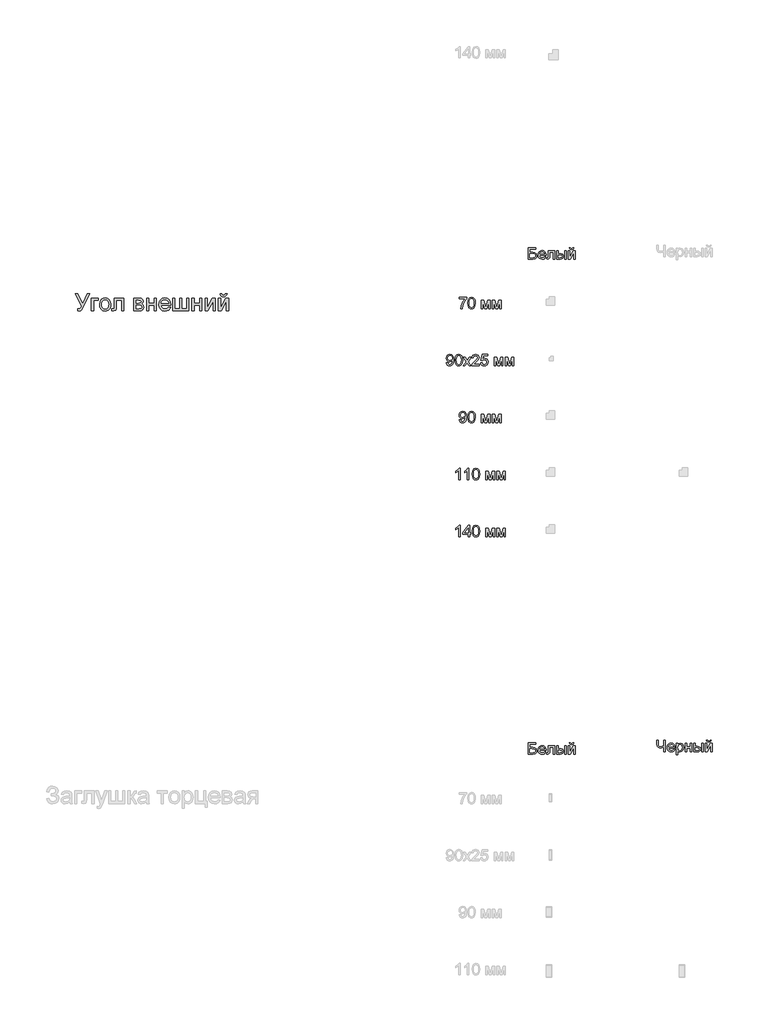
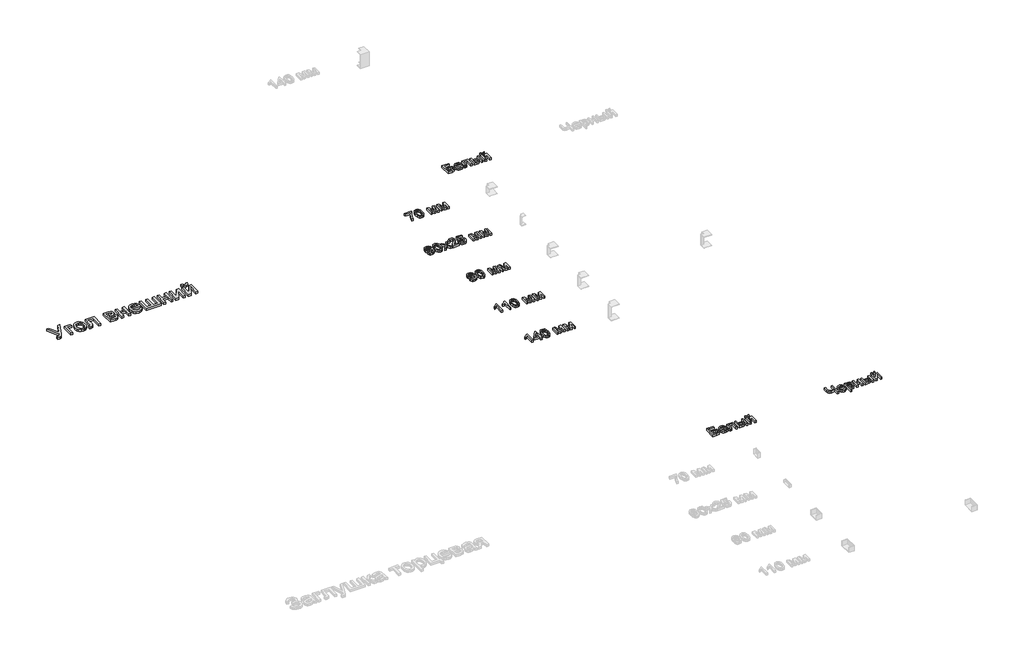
# One storey, part 10 of 48: 9 proxies.
"""IFC4 building model written with IfcOpenShell, lengths in millimetres."""

from ifc_helpers import new_model, si_unit, origin, origin_with_axes, place, context, project, spatial, polyline, outline, extrude, element, save

model = new_model("IFC4")

# Units and contexts
model_context = context("Model", 3, world=origin())
ifc_project = project(units=[si_unit("LENGTHUNIT", "METRE", prefix="MILLI")], contexts=[model_context])

# Site, building, storey
site = spatial("IfcSite", under=ifc_project)
building = spatial("IfcBuilding", under=site)
storey = spatial("IfcBuildingStorey", under=building, Name="Этаж 01", Elevation=0.0)

# Proxies
placement = place(None, origin())
element("IfcBuildingElementProxy", 1, Name="150 мм Arial", ObjectType="150 мм Arial", at=placement, inside=storey, context=model_context, shape_type="SweptSolid", body=[
    extrude(outline(polyline([(8834.9427305, -13090.0354137), (8855.8016396, -13090.0354137), (8900.867184, -13179.2835857), (8941.4077799, -13090.0354137), (8962.082748, -13090.0354137), (8904.8770978, -13207.4265583), (8889.3156894, -13236.2685067), (8881.9304583, -13241.3728694), (8871.914871, -13243.0743236), (8854.955511, -13240.7198789), (8854.955511, -13224.2387655), (8869.7811554, -13224.2387655), (8880.7808271, -13220.0449108), (8890.9711583, -13200.9518352), (8834.9427305, -13090.0354137)])), origin_with_axes(), (0.0, 0.0, 1.0), 20.0),
    extrude(outline(polyline([(8977.386639, -13130.0609747), (9038.602203, -13130.0609747), (9038.602203, -13148.8965329), (8996.2221972, -13148.8965329), (8996.2221972, -13240.7198789), (8977.386639, -13240.7198789), (8977.386639, -13130.0609747)])), origin_with_axes(), (0.0, 0.0, 1.0), 20.0),
    extrude(outline(polyline([(9048.0199821, -13185.3904268), (9052.0942752, -13158.7097851), (9064.3171545, -13139.9570004), (9079.4187104, -13130.7691476), (9097.5001104, -13127.70653), (9117.2875633, -13131.4359337), (9133.0926935, -13142.6241449), (9143.4531702, -13160.3882467), (9146.9066624, -13183.8453224), (9145.3799521, -13202.8740186), (9140.7998213, -13217.3593722), (9133.2996271, -13228.2072925), (9123.0127268, -13236.323689), (9110.794446, -13241.386665), (9097.5001104, -13243.0743236), (9077.4735343, -13239.3587155), (9061.6867982, -13228.211891), (9051.4366861, -13210.0753087), (9048.0199821, -13185.3904268)]), holes=[polyline([(9066.8555402, -13185.3536386), (9069.0352411, -13202.4003706), (9075.5743435, -13214.5450749), (9085.4151869, -13221.8153429), (9097.5001104, -13224.2387655), (9109.5298517, -13221.8015473), (9119.3523009, -13214.4898926), (9125.8914034, -13202.1842399), (9128.0711042, -13184.7650274), (9125.8776078, -13168.2149362), (9119.2971186, -13156.2357787), (9109.4608738, -13148.9655108), (9097.5001104, -13146.5420881), (9085.4151869, -13148.9563137), (9075.5743435, -13156.1989905), (9069.0352411, -13168.3161037), (9066.8555402, -13185.3536386)])]), origin_with_axes(), (0.0, 0.0, 1.0), 20.0),
    extrude(outline(polyline([(9177.5144444, -13130.0609747), (9262.2744561, -13130.0609747), (9262.2744561, -13240.6095143), (9243.4388979, -13240.6095143), (9243.4388979, -13148.8965329), (9196.3500025, -13148.8965329), (9196.3500025, -13201.6875992), (9195.0808097, -13226.0413873), (9188.1094458, -13236.323689), (9171.6283325, -13240.7198789), (9156.3244415, -13239.7633857), (9156.3244415, -13221.8843207), (9164.7489392, -13221.8843207), (9173.2654073, -13220.7254924), (9176.6683158, -13217.0466725), (9177.5144444, -13200.6207414), (9177.5144444, -13130.0609747)])), origin_with_axes(), (0.0, 0.0, 1.0), 20.0),
    extrude(outline(polyline([(9349.3889125, -13130.0609747), (9390.8860016, -13130.0609747), (9413.639503, -13132.5809664), (9426.4417964, -13141.8148045), (9431.7944795, -13157.9096418), (9428.5571179, -13170.9878467), (9418.808245, -13180.3136553), (9431.4633857, -13190.5223806), (9436.503369, -13208.2726869), (9433.3119927, -13222.6292818), (9425.7244265, -13232.7368396), (9413.7130794, -13238.7241191), (9397.2503601, -13240.7198789), (9349.3889125, -13240.7198789), (9349.3889125, -13130.0609747)]), holes=[polyline([(9368.2244707, -13172.4409806), (9386.8392996, -13172.4409806), (9402.1983729, -13171.4844874), (9409.6663774, -13167.6585146), (9412.9589213, -13160.7423331), (9411.5149845, -13155.1229357), (9407.183174, -13151.508495), (9387.4279108, -13148.8965329), (9368.2244707, -13148.8965329), (9368.2244707, -13172.4409806)]), polyline([(9368.2244707, -13221.8843207), (9391.32746, -13221.8843207), (9411.8184871, -13218.4814123), (9416.0583271, -13213.8415006), (9417.6678108, -13206.7275825), (9414.4488434, -13197.6592913), (9406.0611339, -13192.3801847), (9389.48805, -13191.2765387), (9368.2244707, -13191.2765387), (9368.2244707, -13221.8843207)])]), origin_with_axes(), (0.0, 0.0, 1.0), 20.0),
    extrude(outline(polyline([(9460.0478167, -13130.0609747), (9478.8833748, -13130.0609747), (9478.8833748, -13172.4409806), (9528.326715, -13172.4409806), (9528.326715, -13130.0609747), (9547.1622731, -13130.0609747), (9547.1622731, -13240.7198789), (9528.326715, -13240.7198789), (9528.326715, -13191.2765387), (9478.8833748, -13191.2765387), (9478.8833748, -13240.7198789), (9460.0478167, -13240.7198789), (9460.0478167, -13130.0609747)])), origin_with_axes(), (0.0, 0.0, 1.0), 20.0),
    extrude(outline(polyline([(9652.8915586, -13207.7576521), (9671.3592347, -13210.1120969), (9664.7051691, -13224.0272333), (9654.087175, -13234.4290968), (9639.7443758, -13240.9130169), (9621.9158946, -13243.0743236), (9599.8153837, -13239.3449199), (9582.8100385, -13228.1567087), (9571.9667167, -13210.2362571), (9568.3522761, -13186.3101318), (9572.0035049, -13161.5792647), (9582.9571913, -13143.0839974), (9599.7326103, -13131.5508968), (9620.8490368, -13127.70653), (9641.3078742, -13131.5416998), (9657.6556304, -13143.0472092), (9668.374792, -13161.5056883), (9671.9478459, -13186.1997672), (9671.8374813, -13191.2765387), (9587.1878342, -13191.2765387), (9590.4481884, -13205.3756162), (9598.021959, -13215.7406914), (9608.9526528, -13222.114247), (9622.2837766, -13224.2387655), (9640.7514527, -13220.3024281), (9652.8915586, -13207.7576521)]), holes=[polyline([(9587.1878342, -13172.4409806), (9653.1122878, -13172.4409806), (9650.5647049, -13162.4897726), (9645.5707068, -13155.371256), (9634.5894293, -13148.7493801), (9620.7754604, -13146.5420881), (9608.078933, -13148.3033232), (9597.5805006, -13153.5870283), (9590.2826415, -13161.8229865), (9587.1878342, -13172.4409806)])]), origin_with_axes(), (0.0, 0.0, 1.0), 20.0),
    extrude(outline(polyline([(9690.7834041, -13130.0609747), (9709.6189622, -13130.0609747), (9709.6189622, -13221.8843207), (9751.9989681, -13221.8843207), (9751.9989681, -13130.0609747), (9770.8345262, -13130.0609747), (9770.8345262, -13221.8843207), (9813.2145321, -13221.8843207), (9813.2145321, -13130.0609747), (9832.0500902, -13130.0609747), (9832.0500902, -13240.7198789), (9690.7834041, -13240.7198789), (9690.7834041, -13130.0609747)])), origin_with_axes(), (0.0, 0.0, 1.0), 20.0),
    extrude(outline(polyline([(9857.9489827, -13130.0609747), (9876.7845408, -13130.0609747), (9876.7845408, -13172.4409806), (9926.227881, -13172.4409806), (9926.227881, -13130.0609747), (9945.0634391, -13130.0609747), (9945.0634391, -13240.7198789), (9926.227881, -13240.7198789), (9926.227881, -13191.2765387), (9876.7845408, -13191.2765387), (9876.7845408, -13240.7198789), (9857.9489827, -13240.7198789), (9857.9489827, -13130.0609747)])), origin_with_axes(), (0.0, 0.0, 1.0), 20.0),
    extrude(outline(polyline([(9973.3167764, -13130.0609747), (9992.1523345, -13130.0609747), (9992.1523345, -13214.4531044), (10038.4318895, -13130.0609747), (10062.7856776, -13130.0609747), (10062.7856776, -13240.7198789), (10043.9501194, -13240.7198789), (10043.9501194, -13156.842784), (9997.96487, -13240.7198789), (9973.3167764, -13240.7198789), (9973.3167764, -13130.0609747)])), origin_with_axes(), (0.0, 0.0, 1.0), 20.0),
    extrude(outline(polyline([(10091.0390148, -13130.0609747), (10109.874573, -13130.0609747), (10109.874573, -13214.4531044), (10156.154128, -13130.0609747), (10180.507916, -13130.0609747), (10180.507916, -13240.7198789), (10161.6723579, -13240.7198789), (10161.6723579, -13156.842784), (10115.6871085, -13240.7198789), (10091.0390148, -13240.7198789), (10091.0390148, -13130.0609747)])), origin_with_axes(), (0.0, 0.0, 1.0), 20.0),
    extrude(outline(polyline([(10152.2545788, -13090.0354137), (10166.3812474, -13090.0354137), (10163.3416224, -13102.0973446), (10157.2393798, -13110.9862933), (10148.3504311, -13116.4631365), (10136.9506878, -13118.2887509), (10124.5806557, -13116.4769321), (10114.9881327, -13111.0414756), (10108.4306361, -13102.1663224), (10105.1656834, -13090.0354137), (10119.292352, -13090.0354137), (10124.5898528, -13100.6488092), (10135.2584306, -13104.1620823), (10146.9570781, -13100.7591738), (10152.2545788, -13090.0354137)])), origin_with_axes(), (0.0, 0.0, 1.0), 20.0),
])
element("IfcBuildingElementProxy", 2, Name="100 мм Arial", ObjectType="100 мм Arial", at=placement, inside=storey, context=model_context, shape_type="SweptSolid", body=[
    extrude(outline(polyline([(12202.0597089, -13136.7077814), (12202.0597089, -13124.1507427), (12267.9841625, -13124.1507427), (12267.9841625, -13134.3042857), (12249.2834944, -13161.3190869), (12234.9728848, -13195.7405789), (12230.3130462, -13223.037423), (12217.7560074, -13223.037423), (12222.7469398, -13194.7105093), (12236.4444127, -13162.692513), (12255.4271237, -13136.7077814), (12202.0597089, -13136.7077814)])), origin_with_axes(), (0.0, 0.0, 1.0), 20.0),
    extrude(outline(polyline([(12278.9715714, -13173.6186083), (12282.6626541, -13144.7153462), (12293.6255375, -13128.0502918), (12311.9337982, -13122.5811128), (12326.600027, -13125.8184744), (12336.7290446, -13135.1504143), (12342.6151566, -13150.0128469), (12344.8960249, -13173.6186083), (12341.2417304, -13202.399243), (12330.3156352, -13219.1010856), (12322.0842755, -13223.230561), (12311.9337982, -13224.6070528), (12298.8862501, -13222.2158198), (12288.9779617, -13215.0421209), (12281.473169, -13198.0521041), (12278.9715714, -13173.6186083)]), holes=[polyline([(12291.5286102, -13173.5940828), (12293.0001381, -13193.3462803), (12297.4147221, -13204.7782133), (12303.9875471, -13210.2320638), (12311.9337982, -13212.050014), (12319.8800493, -13210.2259325), (12326.4528742, -13204.7536878), (12330.8674582, -13193.3156234), (12332.3389862, -13173.5940828), (12330.9165091, -13154.2864094), (12326.649078, -13142.7655716), (12320.0885157, -13137.0450066), (12311.7866454, -13135.1381516), (12303.9262334, -13136.818146), (12297.6109258, -13141.8581294), (12293.0491891, -13154.0963371), (12291.5286102, -13173.5940828)])]), origin_with_axes(), (0.0, 0.0, 1.0), 20.0),
    extrude(outline(polyline([(12398.2634397, -13149.2648202), (12419.8703755, -13149.2648202), (12436.5231672, -13208.3221432), (12454.4758086, -13149.2648202), (12475.1753022, -13149.2648202), (12475.1753022, -13223.037423), (12462.6182634, -13223.037423), (12462.6182634, -13163.6367435), (12444.5675202, -13223.037423), (12428.0864068, -13223.037423), (12410.8204785, -13160.7917894), (12410.8204785, -13223.037423), (12398.2634397, -13223.037423), (12398.2634397, -13149.2648202)])), origin_with_axes(), (0.0, 0.0, 1.0), 20.0),
    extrude(outline(polyline([(12494.0108603, -13149.2648202), (12515.6177962, -13149.2648202), (12532.2705878, -13208.3221432), (12550.2232292, -13149.2648202), (12570.9227228, -13149.2648202), (12570.9227228, -13223.037423), (12558.365684, -13223.037423), (12558.365684, -13163.6367435), (12540.3149408, -13223.037423), (12523.8338274, -13223.037423), (12506.5678991, -13160.7917894), (12506.5678991, -13223.037423), (12494.0108603, -13223.037423), (12494.0108603, -13149.2648202)])), origin_with_axes(), (0.0, 0.0, 1.0), 20.0),
])
element("IfcBuildingElementProxy", 3, Name="100 мм Arial", ObjectType="100 мм Arial", at=placement, inside=storey, context=model_context, shape_type="SweptSolid", body=[
    extrude(outline(polyline([(12091.4008048, -13697.9233454), (12103.9578436, -13696.3537156), (12109.5987008, -13708.3344059), (12120.2918041, -13712.050014), (12130.4576099, -13709.6587811), (12137.349266, -13703.2698971), (12141.4572816, -13692.3560646), (12143.2721661, -13677.7879376), (12143.1985897, -13675.3353909), (12133.1554112, -13684.8512719), (12119.3843619, -13688.5055663), (12107.9340348, -13686.2737489), (12098.4028254, -13679.5782966), (12091.9740876, -13669.2346812), (12089.8311749, -13656.0583744), (12092.0783208, -13642.4467406), (12098.8197584, -13631.7781627), (12108.9457103, -13624.8803753), (12121.3463992, -13622.5811128), (12139.2377269, -13627.8295626), (12151.549511, -13642.7900971), (12155.7556285, -13670.8962815), (12151.5617737, -13701.3936989), (12146.3470464, -13711.3847608), (12139.0905741, -13718.67189), (12130.1050564, -13723.1232621), (12119.7031929, -13724.6070528), (12108.9671701, -13722.8565476), (12100.4016509, -13717.6050322), (12094.4113058, -13709.1836002), (12091.4008048, -13697.9233454)]), holes=[polyline([(12143.1985897, -13655.7640688), (12141.8435577, -13647.253732), (12137.7784616, -13640.7054324), (12131.4692854, -13636.5299718), (12123.3820129, -13635.1381516), (12114.9943034, -13636.6372707), (12108.2743256, -13641.1346281), (12103.8597417, -13648.0170871), (12102.3882137, -13656.671511), (12103.7800339, -13664.4307554), (12107.9554946, -13670.5897132), (12114.5099254, -13674.608824), (12123.0386564, -13675.9485276), (12137.5209442, -13670.5897132), (12141.7791783, -13664.2038949), (12143.1985897, -13655.7640688)])]), origin_with_axes(), (0.0, 0.0, 1.0), 20.0),
    extrude(outline(polyline([(12166.7430374, -13673.6186083), (12170.4341201, -13644.7153462), (12181.3970035, -13628.0502918), (12199.7052642, -13622.5811128), (12214.371493, -13625.8184744), (12224.5005106, -13635.1504143), (12230.3866226, -13650.0128469), (12232.6674909, -13673.6186083), (12229.0131964, -13702.399243), (12218.0871012, -13719.1010856), (12209.8557415, -13723.230561), (12199.7052642, -13724.6070528), (12186.6577161, -13722.2158198), (12176.7494277, -13715.0421209), (12169.244635, -13698.0521041), (12166.7430374, -13673.6186083)]), holes=[polyline([(12179.3000762, -13673.5940828), (12180.7716041, -13693.3462803), (12185.1861881, -13704.7782133), (12191.7590131, -13710.2320638), (12199.7052642, -13712.050014), (12207.6515153, -13710.2259325), (12214.2243402, -13704.7536878), (12218.6389242, -13693.3156234), (12220.1104522, -13673.5940828), (12218.6879751, -13654.2864094), (12214.420544, -13642.7655716), (12207.8599817, -13637.0450066), (12199.5581114, -13635.1381516), (12191.6976994, -13636.818146), (12185.3823918, -13641.8581294), (12180.8206551, -13654.0963371), (12179.3000762, -13673.5940828)])]), origin_with_axes(), (0.0, 0.0, 1.0), 20.0),
    extrude(outline(polyline([(12238.9460103, -13723.037423), (12265.7768705, -13685.9549178), (12240.5156402, -13649.2648202), (12255.6233274, -13649.2648202), (12267.8124842, -13666.923156), (12273.5023924, -13675.2618145), (12278.4320111, -13668.4437349), (12292.3134251, -13649.2648202), (12307.4211124, -13649.2648202), (12280.8845578, -13685.9549178), (12306.4400937, -13723.037423), (12291.3324064, -13723.037423), (12275.954939, -13700.7437741), (12273.1345104, -13696.6725466), (12254.0536976, -13723.037423), (12238.9460103, -13723.037423)])), origin_with_axes(), (0.0, 0.0, 1.0), 20.0),
    extrude(outline(polyline([(12378.6430666, -13710.4803842), (12378.6430666, -13723.037423), (12312.7186131, -13723.037423), (12314.0675137, -13714.3799333), (12321.6949338, -13701.0503424), (12337.4157577, -13686.4944781), (12359.0962699, -13665.5742553), (12364.516398, -13651.3494848), (12359.4028383, -13639.8347784), (12346.0487218, -13635.1381516), (12332.1305197, -13639.7244138), (12326.8452817, -13652.4040799), (12314.2882429, -13650.83445), (12317.3324664, -13638.6882128), (12323.9144885, -13629.8161254), (12333.6909525, -13624.389866), (12346.318502, -13622.5811128), (12359.038022, -13624.5922011), (12368.7960919, -13630.6254658), (12375.0041005, -13639.6385747), (12377.0734368, -13650.5891954), (12374.8416193, -13662.4963093), (12367.4226658, -13674.8080934), (12349.4332362, -13692.012708), (12334.9877365, -13704.0915002), (12329.3223538, -13710.4803842), (12378.6430666, -13710.4803842)])), origin_with_axes(), (0.0, 0.0, 1.0), 20.0),
    extrude(outline(polyline([(12391.2001054, -13696.3537156), (12403.7571442, -13694.7840857), (12410.0847145, -13707.7212692), (12423.205839, -13712.050014), (12432.2066851, -13710.5447635), (12438.9511884, -13706.029012), (12443.1634372, -13699.0239257), (12444.5675202, -13690.0506707), (12439.3068076, -13675.1391872), (12432.7002601, -13671.0373029), (12423.4020427, -13669.6700082), (12412.3778456, -13671.8527747), (12405.326774, -13677.5181574), (12392.7697352, -13675.9485276), (12403.7571442, -13624.1507427), (12452.4156694, -13624.1507427), (12452.4156694, -13636.7077814), (12413.9106872, -13636.7077814), (12408.5396101, -13664.3725075), (12417.5097994, -13658.9278539), (12426.9091844, -13657.1129694), (12438.6415543, -13659.363181), (12448.3812302, -13666.1138156), (12454.9387267, -13676.4022487), (12457.1245589, -13689.2658558), (12455.1563902, -13701.8228946), (12449.2518842, -13712.5650488), (12437.9456442, -13721.5965518), (12423.156788, -13724.6070528), (12410.8235441, -13722.6726066), (12400.9980292, -13716.8692682), (12394.262723, -13707.8714877), (12391.2001054, -13696.3537156)])), origin_with_axes(), (0.0, 0.0, 1.0), 20.0),
    extrude(outline(polyline([(12510.4919737, -13649.2648202), (12532.0989095, -13649.2648202), (12548.7517012, -13708.3221432), (12566.7043426, -13649.2648202), (12587.4038361, -13649.2648202), (12587.4038361, -13723.037423), (12574.8467974, -13723.037423), (12574.8467974, -13663.6367435), (12556.7960541, -13723.037423), (12540.3149408, -13723.037423), (12523.0490125, -13660.7917894), (12523.0490125, -13723.037423), (12510.4919737, -13723.037423), (12510.4919737, -13649.2648202)])), origin_with_axes(), (0.0, 0.0, 1.0), 20.0),
    extrude(outline(polyline([(12606.2393943, -13649.2648202), (12627.8463301, -13649.2648202), (12644.4991218, -13708.3221432), (12662.4517632, -13649.2648202), (12683.1512568, -13649.2648202), (12683.1512568, -13723.037423), (12670.594218, -13723.037423), (12670.594218, -13663.6367435), (12652.5434748, -13723.037423), (12636.0623614, -13723.037423), (12618.7964331, -13660.7917894), (12618.7964331, -13723.037423), (12606.2393943, -13723.037423), (12606.2393943, -13649.2648202)])), origin_with_axes(), (0.0, 0.0, 1.0), 20.0),
])
element("IfcBuildingElementProxy", 4, Name="100 мм Arial", ObjectType="100 мм Arial", at=placement, inside=storey, context=model_context, shape_type="SweptSolid", body=[
    extrude(outline(polyline([(12203.6293388, -14197.9233454), (12216.1863775, -14196.3537156), (12221.8272348, -14208.3344059), (12232.5203381, -14212.050014), (12242.6861439, -14209.6587811), (12249.5778, -14203.2698971), (12253.6858156, -14192.3560646), (12255.5007001, -14177.7879376), (12255.4271237, -14175.3353909), (12245.3839452, -14184.8512719), (12231.6128959, -14188.5055663), (12220.1625688, -14186.2737489), (12210.6313594, -14179.5782966), (12204.2026216, -14169.2346812), (12202.0597089, -14156.0583744), (12204.3068548, -14142.4467406), (12211.0482923, -14131.7781627), (12221.1742443, -14124.8803753), (12233.5749332, -14122.5811128), (12251.4662609, -14127.8295626), (12263.778045, -14142.7900971), (12267.9841625, -14170.8962815), (12263.7903077, -14201.3936989), (12258.5755804, -14211.3847608), (12251.3191081, -14218.67189), (12242.3335904, -14223.1232621), (12231.9317269, -14224.6070528), (12221.195704, -14222.8565476), (12212.6301849, -14217.6050322), (12206.6398398, -14209.1836002), (12203.6293388, -14197.9233454)]), holes=[polyline([(12255.4271237, -14155.7640688), (12254.0720917, -14147.253732), (12250.0069956, -14140.7054324), (12243.6978194, -14136.5299718), (12235.6105469, -14135.1381516), (12227.2228374, -14136.6372707), (12220.5028596, -14141.1346281), (12216.0882757, -14148.0170871), (12214.6167477, -14156.671511), (12216.0085679, -14164.4307554), (12220.1840286, -14170.5897132), (12226.7384594, -14174.608824), (12235.2671904, -14175.9485276), (12249.7494782, -14170.5897132), (12254.0077123, -14164.2038949), (12255.4271237, -14155.7640688)])]), origin_with_axes(), (0.0, 0.0, 1.0), 20.0),
    extrude(outline(polyline([(12278.9715714, -14173.6186083), (12282.6626541, -14144.7153462), (12293.6255375, -14128.0502918), (12311.9337982, -14122.5811128), (12326.600027, -14125.8184744), (12336.7290446, -14135.1504143), (12342.6151566, -14150.0128469), (12344.8960249, -14173.6186083), (12341.2417304, -14202.399243), (12330.3156352, -14219.1010856), (12322.0842755, -14223.230561), (12311.9337982, -14224.6070528), (12298.8862501, -14222.2158198), (12288.9779617, -14215.0421209), (12281.473169, -14198.0521041), (12278.9715714, -14173.6186083)]), holes=[polyline([(12291.5286102, -14173.5940828), (12293.0001381, -14193.3462803), (12297.4147221, -14204.7782133), (12303.9875471, -14210.2320638), (12311.9337982, -14212.050014), (12319.8800493, -14210.2259325), (12326.4528742, -14204.7536878), (12330.8674582, -14193.3156234), (12332.3389862, -14173.5940828), (12330.9165091, -14154.2864094), (12326.649078, -14142.7655716), (12320.0885157, -14137.0450066), (12311.7866454, -14135.1381516), (12303.9262334, -14136.818146), (12297.6109258, -14141.8581294), (12293.0491891, -14154.0963371), (12291.5286102, -14173.5940828)])]), origin_with_axes(), (0.0, 0.0, 1.0), 20.0),
    extrude(outline(polyline([(12398.2634397, -14149.2648202), (12419.8703755, -14149.2648202), (12436.5231672, -14208.3221432), (12454.4758086, -14149.2648202), (12475.1753022, -14149.2648202), (12475.1753022, -14223.037423), (12462.6182634, -14223.037423), (12462.6182634, -14163.6367435), (12444.5675202, -14223.037423), (12428.0864068, -14223.037423), (12410.8204785, -14160.7917894), (12410.8204785, -14223.037423), (12398.2634397, -14223.037423), (12398.2634397, -14149.2648202)])), origin_with_axes(), (0.0, 0.0, 1.0), 20.0),
    extrude(outline(polyline([(12494.0108603, -14149.2648202), (12515.6177962, -14149.2648202), (12532.2705878, -14208.3221432), (12550.2232292, -14149.2648202), (12570.9227228, -14149.2648202), (12570.9227228, -14223.037423), (12558.365684, -14223.037423), (12558.365684, -14163.6367435), (12540.3149408, -14223.037423), (12523.8338274, -14223.037423), (12506.5678991, -14160.7917894), (12506.5678991, -14223.037423), (12494.0108603, -14223.037423), (12494.0108603, -14149.2648202)])), origin_with_axes(), (0.0, 0.0, 1.0), 20.0),
])
element("IfcBuildingElementProxy", 5, Name="100 мм Arial", ObjectType="100 мм Arial", at=placement, inside=storey, context=model_context, shape_type="SweptSolid", body=[
    extrude(outline(polyline([(12210.6926731, -14723.037423), (12198.1356343, -14723.037423), (12198.1356343, -14644.7521344), (12186.2407831, -14653.225683), (12173.0215568, -14659.5655161), (12173.0215568, -14647.6951903), (12191.4279193, -14635.947492), (12202.5992692, -14622.5811128), (12210.6926731, -14622.5811128), (12210.6926731, -14723.037423)])), origin_with_axes(), (0.0, 0.0, 1.0), 20.0),
    extrude(outline(polyline([(12287.6045355, -14723.037423), (12275.0474968, -14723.037423), (12275.0474968, -14644.7521344), (12263.1526456, -14653.225683), (12249.9334192, -14659.5655161), (12249.9334192, -14647.6951903), (12268.3397817, -14635.947492), (12279.5111316, -14622.5811128), (12287.6045355, -14622.5811128), (12287.6045355, -14723.037423)])), origin_with_axes(), (0.0, 0.0, 1.0), 20.0),
    extrude(outline(polyline([(12317.4275026, -14673.6186083), (12321.1185853, -14644.7153462), (12332.0814688, -14628.0502918), (12350.3897294, -14622.5811128), (12365.0559583, -14625.8184744), (12375.1849759, -14635.1504143), (12381.0710878, -14650.0128469), (12383.3519562, -14673.6186083), (12379.6976617, -14702.399243), (12368.7715664, -14719.1010856), (12360.5402068, -14723.230561), (12350.3897294, -14724.6070528), (12337.3421813, -14722.2158198), (12327.4338929, -14715.0421209), (12319.9291002, -14698.0521041), (12317.4275026, -14673.6186083)]), holes=[polyline([(12329.9845414, -14673.5940828), (12331.4560694, -14693.3462803), (12335.8706533, -14704.7782133), (12342.4434783, -14710.2320638), (12350.3897294, -14712.050014), (12358.3359805, -14710.2259325), (12364.9088055, -14704.7536878), (12369.3233894, -14693.3156234), (12370.7949174, -14673.5940828), (12369.3724403, -14654.2864094), (12365.1050092, -14642.7655716), (12358.5444469, -14637.0450066), (12350.2425766, -14635.1381516), (12342.3821646, -14636.818146), (12336.066857, -14641.8581294), (12331.5051203, -14654.0963371), (12329.9845414, -14673.5940828)])]), origin_with_axes(), (0.0, 0.0, 1.0), 20.0),
    extrude(outline(polyline([(12436.7193709, -14649.2648202), (12458.3263068, -14649.2648202), (12474.9790984, -14708.3221432), (12492.9317398, -14649.2648202), (12513.6312334, -14649.2648202), (12513.6312334, -14723.037423), (12501.0741946, -14723.037423), (12501.0741946, -14663.6367435), (12483.0234514, -14723.037423), (12466.542338, -14723.037423), (12449.2764097, -14660.7917894), (12449.2764097, -14723.037423), (12436.7193709, -14723.037423), (12436.7193709, -14649.2648202)])), origin_with_axes(), (0.0, 0.0, 1.0), 20.0),
    extrude(outline(polyline([(12532.4667915, -14649.2648202), (12554.0737274, -14649.2648202), (12570.726519, -14708.3221432), (12588.6791604, -14649.2648202), (12609.378654, -14649.2648202), (12609.378654, -14723.037423), (12596.8216152, -14723.037423), (12596.8216152, -14663.6367435), (12578.770872, -14723.037423), (12562.2897586, -14723.037423), (12545.0238303, -14660.7917894), (12545.0238303, -14723.037423), (12532.4667915, -14723.037423), (12532.4667915, -14649.2648202)])), origin_with_axes(), (0.0, 0.0, 1.0), 20.0),
])
element("IfcBuildingElementProxy", 6, Name="100 мм Arial", ObjectType="100 мм Arial", at=placement, inside=storey, context=model_context, shape_type="SweptSolid", body=[
    extrude(outline(polyline([(12210.6926731, -15223.037423), (12198.1356343, -15223.037423), (12198.1356343, -15144.7521344), (12186.2407831, -15153.225683), (12173.0215568, -15159.5655161), (12173.0215568, -15147.6951903), (12191.4279193, -15135.947492), (12202.5992692, -15122.5811128), (12210.6926731, -15122.5811128), (12210.6926731, -15223.037423)])), origin_with_axes(), (0.0, 0.0, 1.0), 20.0),
    extrude(outline(polyline([(12281.3260162, -15223.037423), (12281.3260162, -15199.4929753), (12235.8067506, -15199.4929753), (12235.8067506, -15186.9359365), (12284.4652759, -15124.1507427), (12293.8830549, -15124.1507427), (12293.8830549, -15186.9359365), (12306.4400937, -15186.9359365), (12306.4400937, -15199.4929753), (12293.8830549, -15199.4929753), (12293.8830549, -15223.037423), (12281.3260162, -15223.037423)]), holes=[polyline([(12281.3260162, -15186.9359365), (12281.3260162, -15148.1366487), (12251.2577944, -15186.9359365), (12281.3260162, -15186.9359365)])]), origin_with_axes(), (0.0, 0.0, 1.0), 20.0),
    extrude(outline(polyline([(12317.4275026, -15173.6186083), (12321.1185853, -15144.7153462), (12332.0814688, -15128.0502918), (12350.3897294, -15122.5811128), (12365.0559583, -15125.8184744), (12375.1849759, -15135.1504143), (12381.0710878, -15150.0128469), (12383.3519562, -15173.6186083), (12379.6976617, -15202.399243), (12368.7715664, -15219.1010856), (12360.5402068, -15223.230561), (12350.3897294, -15224.6070528), (12337.3421813, -15222.2158198), (12327.4338929, -15215.0421209), (12319.9291002, -15198.0521041), (12317.4275026, -15173.6186083)]), holes=[polyline([(12329.9845414, -15173.5940828), (12331.4560694, -15193.3462803), (12335.8706533, -15204.7782133), (12342.4434783, -15210.2320638), (12350.3897294, -15212.050014), (12358.3359805, -15210.2259325), (12364.9088055, -15204.7536878), (12369.3233894, -15193.3156234), (12370.7949174, -15173.5940828), (12369.3724403, -15154.2864094), (12365.1050092, -15142.7655716), (12358.5444469, -15137.0450066), (12350.2425766, -15135.1381516), (12342.3821646, -15136.818146), (12336.066857, -15141.8581294), (12331.5051203, -15154.0963371), (12329.9845414, -15173.5940828)])]), origin_with_axes(), (0.0, 0.0, 1.0), 20.0),
    extrude(outline(polyline([(12436.7193709, -15149.2648202), (12458.3263068, -15149.2648202), (12474.9790984, -15208.3221432), (12492.9317398, -15149.2648202), (12513.6312334, -15149.2648202), (12513.6312334, -15223.037423), (12501.0741946, -15223.037423), (12501.0741946, -15163.6367435), (12483.0234514, -15223.037423), (12466.542338, -15223.037423), (12449.2764097, -15160.7917894), (12449.2764097, -15223.037423), (12436.7193709, -15223.037423), (12436.7193709, -15149.2648202)])), origin_with_axes(), (0.0, 0.0, 1.0), 20.0),
    extrude(outline(polyline([(12532.4667915, -15149.2648202), (12554.0737274, -15149.2648202), (12570.726519, -15208.3221432), (12588.6791604, -15149.2648202), (12609.378654, -15149.2648202), (12609.378654, -15223.037423), (12596.8216152, -15223.037423), (12596.8216152, -15163.6367435), (12578.770872, -15223.037423), (12562.2897586, -15223.037423), (12545.0238303, -15160.7917894), (12545.0238303, -15223.037423), (12532.4667915, -15223.037423), (12532.4667915, -15149.2648202)])), origin_with_axes(), (0.0, 0.0, 1.0), 20.0),
])
element("IfcBuildingElementProxy", 7, Name="100 мм Arial", ObjectType="100 мм Arial", at=placement, inside=storey, context=model_context, shape_type="SweptSolid", body=[
    extrude(outline(polyline([(12811.066508, -12686.1711167), (12873.8517019, -12686.1711167), (12873.8517019, -12698.7281555), (12823.6235468, -12698.7281555), (12823.6235468, -12728.5511226), (12847.143469, -12728.5511226), (12867.8674881, -12731.1017711), (12880.2037976, -12740.7402794), (12884.8391108, -12757.2213927), (12881.5404356, -12771.5320024), (12871.6934608, -12782.4090467), (12849.3998119, -12786.6274269), (12811.066508, -12786.6274269), (12811.066508, -12686.1711167)]), holes=[polyline([(12823.6235468, -12774.0703881), (12850.5279834, -12774.0703881), (12866.8374185, -12769.9255843), (12870.9209086, -12764.7445795), (12872.282072, -12757.4911729), (12869.1673378, -12747.6564609), (12860.4975854, -12742.4080111), (12841.5761881, -12741.1081614), (12823.6235468, -12741.1081614), (12823.6235468, -12774.0703881)])]), origin_with_axes(), (0.0, 0.0, 1.0), 20.0),
    extrude(outline(polyline([(12952.1860414, -12764.652609), (12964.4978255, -12766.2222389), (12960.0617817, -12775.4989965), (12952.983119, -12782.4335721), (12943.4212528, -12786.7561856), (12931.5355987, -12788.1970567), (12916.8019248, -12785.7107876), (12905.465028, -12778.2519801), (12898.2361468, -12766.3050123), (12895.8265197, -12750.3542622), (12898.2606722, -12733.8670174), (12905.5631298, -12721.5368392), (12916.7467425, -12713.8481055), (12930.8243602, -12711.2851943), (12944.4635851, -12713.8419741), (12955.3620893, -12721.5123137), (12962.508197, -12733.8179665), (12964.8902329, -12750.2806858), (12964.8166565, -12753.6652001), (12908.3835585, -12753.6652001), (12910.5571279, -12763.0645851), (12915.6063083, -12769.9746352), (12922.8934375, -12774.2236723), (12931.7808534, -12775.640018), (12944.0926375, -12773.0157931), (12952.1860414, -12764.652609)]), holes=[polyline([(12908.3835585, -12741.1081614), (12952.3331942, -12741.1081614), (12947.3054736, -12729.728345), (12939.9846219, -12725.313761), (12930.7753092, -12723.842233), (12915.3120027, -12728.5388599), (12910.4467633, -12734.0294986), (12908.3835585, -12741.1081614)])]), origin_with_axes(), (0.0, 0.0, 1.0), 20.0),
    extrude(outline(polyline([(12983.7257911, -12712.8548241), (13040.2324655, -12712.8548241), (13040.2324655, -12786.5538505), (13027.6754268, -12786.5538505), (13027.6754268, -12725.4118629), (12996.2828298, -12725.4118629), (12996.2828298, -12760.6059071), (12995.4367013, -12776.8417658), (12990.7891254, -12783.6966337), (12979.8017165, -12786.6274269), (12969.5991225, -12785.9897648), (12969.5991225, -12774.0703881), (12975.2154543, -12774.0703881), (12980.8930997, -12773.2978359), (12983.1617054, -12770.8452893), (12983.7257911, -12759.8946686), (12983.7257911, -12712.8548241)])), origin_with_axes(), (0.0, 0.0, 1.0), 20.0),
    extrude(outline(polyline([(13128.1317369, -12712.8548241), (13140.6887757, -12712.8548241), (13140.6887757, -12786.6274269), (13128.1317369, -12786.6274269), (13128.1317369, -12712.8548241)])), origin_with_axes(), (0.0, 0.0, 1.0), 20.0),
    extrude(outline(polyline([(13059.0680237, -12712.8548241), (13071.6250625, -12712.8548241), (13071.6250625, -12739.5385315), (13087.1496827, -12739.5385315), (13100.5681784, -12741.111227), (13110.5101894, -12745.8293136), (13116.6630157, -12753.3126465), (13118.7139578, -12763.1810811), (13116.9941095, -12772.1665988), (13111.8345645, -12779.7480336), (13102.8980977, -12784.9075786), (13089.847484, -12786.6274269), (13059.0680237, -12786.6274269), (13059.0680237, -12712.8548241)]), holes=[polyline([(13071.6250625, -12774.0703881), (13084.5254578, -12774.0703881), (13101.1782494, -12771.4339005), (13106.1569191, -12763.2056065), (13102.4658364, -12755.4800846), (13086.168664, -12752.0955703), (13071.6250625, -12752.0955703), (13071.6250625, -12774.0703881)])]), origin_with_axes(), (0.0, 0.0, 1.0), 20.0),
    extrude(outline(polyline([(13159.5243338, -12712.8548241), (13172.0813726, -12712.8548241), (13172.0813726, -12769.1162439), (13202.9344093, -12712.8548241), (13219.170268, -12712.8548241), (13219.170268, -12786.6274269), (13206.6132292, -12786.6274269), (13206.6132292, -12730.7093636), (13175.9563963, -12786.6274269), (13159.5243338, -12786.6274269), (13159.5243338, -12712.8548241)])), origin_with_axes(), (0.0, 0.0, 1.0), 20.0),
    extrude(outline(polyline([(13200.3347098, -12686.1711167), (13209.7524889, -12686.1711167), (13203.6579105, -12700.1383698), (13190.1321158, -12705.0066749), (13175.4904124, -12700.175158), (13168.9421129, -12686.1711167), (13178.359892, -12686.1711167), (13181.8915591, -12693.2467138), (13189.0039444, -12695.5888958), (13196.8030427, -12693.3202902), (13200.3347098, -12686.1711167)])), origin_with_axes(), (0.0, 0.0, 1.0), 20.0),
])
element("IfcBuildingElementProxy", 8, Name="100 мм Arial", ObjectType="100 мм Arial", at=placement, inside=storey, context=model_context, shape_type="SweptSolid", body=[
    extrude(outline(polyline([(12811.066508, -17029.5825796), (12873.8517019, -17029.5825796), (12873.8517019, -17042.1396184), (12823.6235468, -17042.1396184), (12823.6235468, -17071.9625854), (12847.143469, -17071.9625854), (12867.8674881, -17074.5132339), (12880.2037976, -17084.1517422), (12884.8391108, -17100.6328556), (12881.5404356, -17114.9434652), (12871.6934608, -17125.8205095), (12849.3998119, -17130.0388898), (12811.066508, -17130.0388898), (12811.066508, -17029.5825796)]), holes=[polyline([(12823.6235468, -17117.481851), (12850.5279834, -17117.481851), (12866.8374185, -17113.3370472), (12870.9209086, -17108.1560424), (12872.282072, -17100.9026357), (12869.1673378, -17091.0679237), (12860.4975854, -17085.8194739), (12841.5761881, -17084.5196242), (12823.6235468, -17084.5196242), (12823.6235468, -17117.481851)])]), origin_with_axes(), (0.0, 0.0, 1.0), 20.0),
    extrude(outline(polyline([(12952.1860414, -17108.0640719), (12964.4978255, -17109.6337018), (12960.0617817, -17118.9104594), (12952.983119, -17125.845035), (12943.4212528, -17130.1676484), (12931.5355987, -17131.6085196), (12916.8019248, -17129.1222504), (12905.465028, -17121.663443), (12898.2361468, -17109.7164752), (12895.8265197, -17093.765725), (12898.2606722, -17077.2784803), (12905.5631298, -17064.9483021), (12916.7467425, -17057.2595684), (12930.8243602, -17054.6966571), (12944.4635851, -17057.253437), (12955.3620893, -17064.9237766), (12962.508197, -17077.2294293), (12964.8902329, -17093.6921486), (12964.8166565, -17097.076663), (12908.3835585, -17097.076663), (12910.5571279, -17106.476048), (12915.6063083, -17113.3860981), (12922.8934375, -17117.6351351), (12931.7808534, -17119.0514808), (12944.0926375, -17116.4272559), (12952.1860414, -17108.0640719)]), holes=[polyline([(12908.3835585, -17084.5196242), (12952.3331942, -17084.5196242), (12947.3054736, -17073.1398078), (12939.9846219, -17068.7252239), (12930.7753092, -17067.2536959), (12915.3120027, -17071.9503227), (12910.4467633, -17077.4409615), (12908.3835585, -17084.5196242)])]), origin_with_axes(), (0.0, 0.0, 1.0), 20.0),
    extrude(outline(polyline([(12983.7257911, -17056.266287), (13040.2324655, -17056.266287), (13040.2324655, -17129.9653134), (13027.6754268, -17129.9653134), (13027.6754268, -17068.8233258), (12996.2828298, -17068.8233258), (12996.2828298, -17104.01737), (12995.4367013, -17120.2532287), (12990.7891254, -17127.1080965), (12979.8017165, -17130.0388898), (12969.5991225, -17129.4012276), (12969.5991225, -17117.481851), (12975.2154543, -17117.481851), (12980.8930997, -17116.7092988), (12983.1617054, -17114.2567522), (12983.7257911, -17103.3061314), (12983.7257911, -17056.266287)])), origin_with_axes(), (0.0, 0.0, 1.0), 20.0),
    extrude(outline(polyline([(13128.1317369, -17056.266287), (13140.6887757, -17056.266287), (13140.6887757, -17130.0388898), (13128.1317369, -17130.0388898), (13128.1317369, -17056.266287)])), origin_with_axes(), (0.0, 0.0, 1.0), 20.0),
    extrude(outline(polyline([(13059.0680237, -17056.266287), (13071.6250625, -17056.266287), (13071.6250625, -17082.9499944), (13087.1496827, -17082.9499944), (13100.5681784, -17084.5226899), (13110.5101894, -17089.2407765), (13116.6630157, -17096.7241094), (13118.7139578, -17106.5925439), (13116.9941095, -17115.5780617), (13111.8345645, -17123.1594964), (13102.8980977, -17128.3190414), (13089.847484, -17130.0388898), (13059.0680237, -17130.0388898), (13059.0680237, -17056.266287)]), holes=[polyline([(13071.6250625, -17117.481851), (13084.5254578, -17117.481851), (13101.1782494, -17114.8453634), (13106.1569191, -17106.6170694), (13102.4658364, -17098.8915475), (13086.168664, -17095.5070331), (13071.6250625, -17095.5070331), (13071.6250625, -17117.481851)])]), origin_with_axes(), (0.0, 0.0, 1.0), 20.0),
    extrude(outline(polyline([(13159.5243338, -17056.266287), (13172.0813726, -17056.266287), (13172.0813726, -17112.5277068), (13202.9344093, -17056.266287), (13219.170268, -17056.266287), (13219.170268, -17130.0388898), (13206.6132292, -17130.0388898), (13206.6132292, -17074.1208265), (13175.9563963, -17130.0388898), (13159.5243338, -17130.0388898), (13159.5243338, -17056.266287)])), origin_with_axes(), (0.0, 0.0, 1.0), 20.0),
    extrude(outline(polyline([(13200.3347098, -17029.5825796), (13209.7524889, -17029.5825796), (13203.6579105, -17043.5498327), (13190.1321158, -17048.4181378), (13175.4904124, -17043.5866209), (13168.9421129, -17029.5825796), (13178.359892, -17029.5825796), (13181.8915591, -17036.6581766), (13189.0039444, -17039.0003587), (13196.8030427, -17036.731753), (13200.3347098, -17029.5825796)])), origin_with_axes(), (0.0, 0.0, 1.0), 20.0),
])
element("IfcBuildingElementProxy", 9, Name="100 мм Arial", ObjectType="100 мм Arial", at=placement, inside=storey, context=model_context, shape_type="SweptSolid", body=[
    extrude(outline(polyline([(14011.6331218, -17109.5408408), (13999.076083, -17109.5408408), (13999.076083, -17069.319076), (13967.9777917, -17076.5786141), (13949.6204802, -17071.6122071), (13938.9764278, -17059.0061174), (13936.2908892, -17039.0055996), (13936.2908892, -17009.0845307), (13948.847928, -17009.0845307), (13948.847928, -17037.3133425), (13950.3562442, -17050.8912538), (13954.8811927, -17058.8589646), (13969.3757433, -17064.0215753), (13999.076083, -17057.7921069), (13999.076083, -17009.0845307), (14011.6331218, -17009.0845307), (14011.6331218, -17109.5408408)])), origin_with_axes(), (0.0, 0.0, 1.0), 20.0),
    extrude(outline(polyline([(14083.6889419, -17087.566023), (14096.000726, -17089.1356528), (14091.5646823, -17098.4124105), (14084.4860196, -17105.3469861), (14074.9241534, -17109.6695995), (14063.0384993, -17111.1104707), (14048.3048254, -17108.6242015), (14036.9679286, -17101.1653941), (14029.7390473, -17089.2184263), (14027.3294203, -17073.2676761), (14029.7635728, -17056.7804314), (14037.0660304, -17044.4502532), (14048.2496431, -17036.7615195), (14062.3272608, -17034.1986082), (14075.9664857, -17036.7553881), (14086.8649898, -17044.4257277), (14094.0110976, -17056.7313804), (14096.3931335, -17073.1940997), (14096.3195571, -17076.5786141), (14039.886459, -17076.5786141), (14042.0600285, -17085.9779991), (14047.1092089, -17092.8880492), (14054.3963381, -17097.1370862), (14063.2837539, -17098.5534319), (14075.595538, -17095.929207), (14083.6889419, -17087.566023)]), holes=[polyline([(14039.886459, -17064.0215753), (14083.8360947, -17064.0215753), (14078.8083741, -17052.6417589), (14071.4875224, -17048.227175), (14062.2782098, -17046.755647), (14046.8149033, -17051.4522738), (14041.9496639, -17056.9429126), (14039.886459, -17064.0215753)])]), origin_with_axes(), (0.0, 0.0, 1.0), 20.0),
    extrude(outline(polyline([(14108.9501723, -17137.7941781), (14108.9501723, -17035.7682381), (14121.507211, -17035.7682381), (14121.507211, -17048.0800222), (14130.1892261, -17037.6689617), (14141.912399, -17034.1986082), (14157.8294267, -17039.0546506), (14168.2282244, -17052.7398608), (14171.7353661, -17072.0904537), (14167.7745033, -17092.4343281), (14156.2720596, -17106.2912166), (14140.3918201, -17111.1104707), (14129.4657249, -17107.8853719), (14121.507211, -17099.7306543), (14121.507211, -17137.7941781), (14108.9501723, -17137.7941781)]), holes=[polyline([(14121.507211, -17073.2431507), (14122.8653087, -17084.5003397), (14126.9396018, -17092.3730144), (14132.9514068, -17097.0083275), (14140.12204, -17098.5534319), (14147.4091692, -17096.9531452), (14153.5742583, -17092.1522852), (14157.7773101, -17083.9914363), (14159.1783274, -17072.3111829), (14157.8110326, -17061.1153076), (14153.7091484, -17053.1322683), (14147.7065405, -17048.3498023), (14140.6370748, -17046.755647), (14133.540018, -17048.4509699), (14127.3074838, -17053.5369384), (14122.9572792, -17061.8541372), (14121.507211, -17073.2431507)])]), origin_with_axes(), (0.0, 0.0, 1.0), 20.0),
    extrude(outline(polyline([(14185.8620347, -17035.7682381), (14198.4190735, -17035.7682381), (14198.4190735, -17064.0215753), (14231.3813003, -17064.0215753), (14231.3813003, -17035.7682381), (14243.938339, -17035.7682381), (14243.938339, -17109.5408408), (14231.3813003, -17109.5408408), (14231.3813003, -17076.5786141), (14198.4190735, -17076.5786141), (14198.4190735, -17109.5408408), (14185.8620347, -17109.5408408), (14185.8620347, -17035.7682381)])), origin_with_axes(), (0.0, 0.0, 1.0), 20.0),
    extrude(outline(polyline([(14331.8376104, -17035.7682381), (14344.3946492, -17035.7682381), (14344.3946492, -17109.5408408), (14331.8376104, -17109.5408408), (14331.8376104, -17035.7682381)])), origin_with_axes(), (0.0, 0.0, 1.0), 20.0),
    extrude(outline(polyline([(14262.7738972, -17035.7682381), (14275.330936, -17035.7682381), (14275.330936, -17062.4519455), (14290.8555562, -17062.4519455), (14304.2740519, -17064.024641), (14314.2160629, -17068.7427276), (14320.3688892, -17076.2260605), (14322.4198313, -17086.094495), (14320.699983, -17095.0800128), (14315.540438, -17102.6614475), (14306.6039712, -17107.8209925), (14293.5533575, -17109.5408408), (14262.7738972, -17109.5408408), (14262.7738972, -17035.7682381)]), holes=[polyline([(14275.330936, -17096.9838021), (14288.2313313, -17096.9838021), (14304.8841229, -17094.3473144), (14309.8627926, -17086.1190205), (14306.1717099, -17078.3934986), (14289.8745375, -17075.0089842), (14275.330936, -17075.0089842), (14275.330936, -17096.9838021)])]), origin_with_axes(), (0.0, 0.0, 1.0), 20.0),
    extrude(outline(polyline([(14363.2302073, -17035.7682381), (14375.7872461, -17035.7682381), (14375.7872461, -17092.0296579), (14406.6402828, -17035.7682381), (14422.8761415, -17035.7682381), (14422.8761415, -17109.5408408), (14410.3191027, -17109.5408408), (14410.3191027, -17053.6227776), (14379.6622698, -17109.5408408), (14363.2302073, -17109.5408408), (14363.2302073, -17035.7682381)])), origin_with_axes(), (0.0, 0.0, 1.0), 20.0),
    extrude(outline(polyline([(14404.0405833, -17009.0845307), (14413.4583624, -17009.0845307), (14407.363784, -17023.0517838), (14393.8379893, -17027.9200889), (14379.1962859, -17023.088572), (14372.6479864, -17009.0845307), (14382.0657655, -17009.0845307), (14385.5974326, -17016.1601277), (14392.7098179, -17018.5023098), (14400.5089162, -17016.2337041), (14404.0405833, -17009.0845307)])), origin_with_axes(), (0.0, 0.0, 1.0), 20.0),
])

save(model, "model.ifc")
